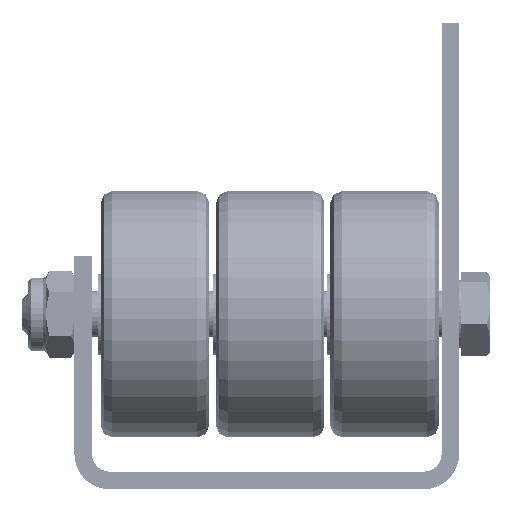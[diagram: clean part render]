
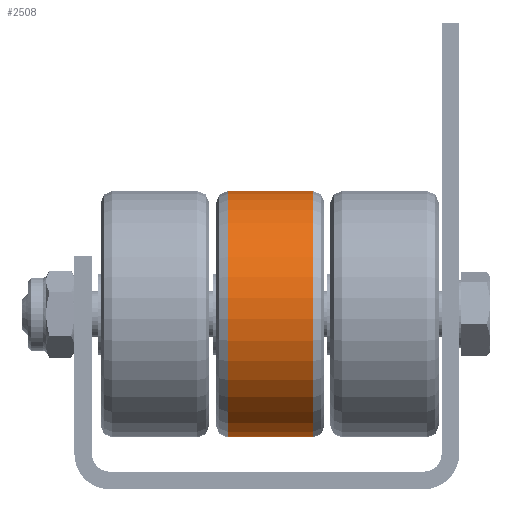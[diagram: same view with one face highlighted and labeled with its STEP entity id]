
A CAD part, front view. The second image highlights one B-rep face of the part: STEP entity #2508.
In plain terms, the highlighted cylindrical face has radius 21.15 mm (diameter 42.3 mm), a full revolution.
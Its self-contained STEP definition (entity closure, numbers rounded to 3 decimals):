
#2508 = ADVANCED_FACE( '', ( #4391, #4392 ), #4393, .T. );
#4391 = FACE_OUTER_BOUND( '', #5878, .T. );
#4392 = FACE_OUTER_BOUND( '', #5879, .T. );
#4393 = CYLINDRICAL_SURFACE( '', #5880, 21.15 );
#5878 = EDGE_LOOP( '', ( #7982 ) );
#5879 = EDGE_LOOP( '', ( #7983 ) );
#5880 = AXIS2_PLACEMENT_3D( '', #7984, #7985, #7986 );
#7982 = ORIENTED_EDGE( '', *, *, #9142, .T. );
#7983 = ORIENTED_EDGE( '', *, *, #9578, .T. );
#7984 = CARTESIAN_POINT( '', ( 0., -9.3, 0. ) );
#7985 = DIRECTION( '', ( 0., -1., 0. ) );
#7986 = DIRECTION( '', ( 0., 0., 1. ) );
#9142 = EDGE_CURVE( '', #10335, #10335, #10336, .F. );
#9578 = EDGE_CURVE( '', #11028, #11028, #11029, .T. );
#10335 = VERTEX_POINT( '', #11984 );
#10336 = CIRCLE( '', #11985, 21.15 );
#11028 = VERTEX_POINT( '', #12916 );
#11029 = CIRCLE( '', #12917, 21.15 );
#11984 = CARTESIAN_POINT( '', ( 0., 7.3, 21.15 ) );
#11985 = AXIS2_PLACEMENT_3D( '', #13794, #13795, #13796 );
#12916 = CARTESIAN_POINT( '', ( 0., -7.3, 21.15 ) );
#12917 = AXIS2_PLACEMENT_3D( '', #14507, #14508, #14509 );
#13794 = CARTESIAN_POINT( '', ( 0., 7.3, 0. ) );
#13795 = DIRECTION( '', ( 0., 1., 0. ) );
#13796 = DIRECTION( '', ( 0., 0., 1. ) );
#14507 = CARTESIAN_POINT( '', ( 0., -7.3, 0. ) );
#14508 = DIRECTION( '', ( 0., 1., 0. ) );
#14509 = DIRECTION( '', ( 0., 0., 1. ) );
